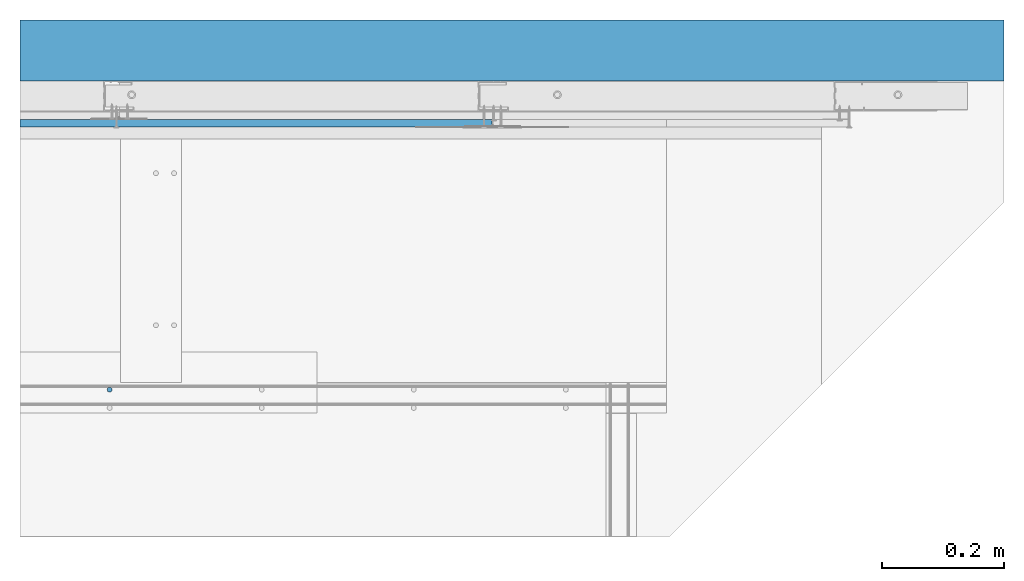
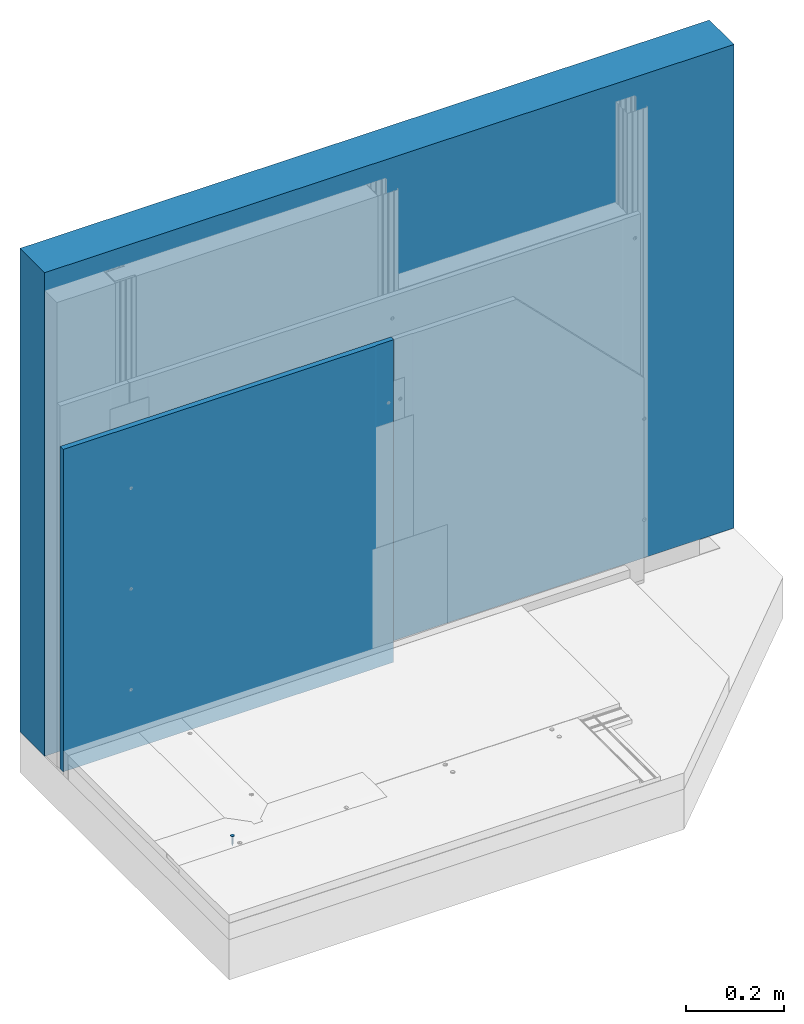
# One storey, part 13 of 38: 2 walls, 1 slab.
"""IFC2X3 building model written with IfcOpenShell, lengths in millimetres."""

from ifc_helpers import new_model, entity, si_unit, converted_unit, direction, frame, origin, origin_with_axes, place, context, project, spatial, faceted_brep, element, save


model = new_model("IFC2X3")

# Units and contexts
model_context = context("Model", 3, precision=1e-05, world=origin(), true_north=direction((0.0, 1.0, 0.0)))
ifc_project = project(units=[si_unit("LENGTHUNIT", "METRE", prefix="MILLI"), si_unit("AREAUNIT", "SQUARE_METRE"), si_unit("VOLUMEUNIT", "CUBIC_METRE"), converted_unit("PLANEANGLEUNIT", "DEGREE", entity("IfcPlaneAngleMeasure", 0.01745), si_unit("PLANEANGLEUNIT", "RADIAN"), dimensions=[0, 0, 0, 0, 0, 0, 0]), si_unit("SOLIDANGLEUNIT", "STERADIAN"), si_unit("MASSUNIT", "GRAM"), si_unit("TIMEUNIT", "SECOND"), si_unit("THERMODYNAMICTEMPERATUREUNIT", "DEGREE_CELSIUS"), si_unit("LUMINOUSINTENSITYUNIT", "LUMEN")], contexts=[model_context])

# Site, building, storey
site_placement = place(None, origin_with_axes())
site = spatial("IfcSite", under=ifc_project, at=site_placement, Name="Default Site", CompositionType="ELEMENT")
building_placement = place(site_placement, origin_with_axes())
building = spatial("IfcBuilding", under=site, at=building_placement, Name="Default Building", CompositionType="ELEMENT")
storey_placement = place(building_placement, origin_with_axes())
storey = spatial("IfcBuildingStorey", under=building, at=storey_placement, Name="Default Building Storey", CompositionType="ELEMENT", Elevation=0.0)

# Slab
slab_placement = place(storey_placement, frame((2135.048962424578, 958.3800775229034, -3328.636918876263), z_axis=(-3.700634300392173e-13, 1.0, -1.897141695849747e-12), x_axis=(-1.0, -3.700634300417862e-13, -1.354137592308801e-12)))
element("IfcSlab", 1, at=slab_placement, inside=storey, Name="Wkręt RIGIPS Rigidur 3,9x19 mm", context=model_context, shape_type="Brep", body=[
    faceted_brep([(-141.5377463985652, 3390.556721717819, 555.8000000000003), (-141.5377463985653, 3391.020944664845, 555.8000000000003), (-141.4875329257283, 3391.020944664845, 555.1619773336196), (-141.4875329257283, 3390.556721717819, 555.1619773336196), (-141.3381289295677, 3391.020944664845, 554.5396649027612), (-141.3381289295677, 3390.556721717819, 554.5396649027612), (-141.0932132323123, 3391.020944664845, 553.9483861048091), (-141.0932132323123, 3390.556721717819, 553.9483861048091), (-140.7588164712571, 3391.020944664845, 553.4027001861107), (-140.7588164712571, 3390.556721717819, 553.4027001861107), (-140.3431726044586, 3391.020944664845, 552.9160437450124), (-140.4541727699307, 3390.556721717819, 553.0314907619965), (-140.1080097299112, 3390.556721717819, 552.6986614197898), (-139.8565161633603, 3391.020944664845, 552.5003998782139), (-139.7251262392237, 3390.556721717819, 552.4088262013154), (-139.310830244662, 3391.020944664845, 552.1660031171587), (-139.310830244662, 3390.556721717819, 552.1660031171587), (-138.8708651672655, 3390.556721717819, 551.9735584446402), (-138.7195514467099, 3391.020944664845, 551.9210874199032), (-138.4113302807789, 3390.556721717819, 551.8341600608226), (-137.9385961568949, 3390.556721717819, 551.7497404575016), (-138.0972390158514, 3391.020944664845, 551.7716834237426), (-137.4592163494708, 3391.020944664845, 551.7214699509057), (-137.4592163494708, 3390.556721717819, 551.7214699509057), (-136.8211936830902, 3391.020944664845, 551.7716834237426), (-136.8211936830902, 3390.556721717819, 551.7716834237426), (-136.1988812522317, 3391.020944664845, 551.9210874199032), (-136.1988812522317, 3390.556721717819, 551.9210874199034), (-135.6076024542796, 3391.020944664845, 552.1660031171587), (-135.6076024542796, 3390.556721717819, 552.1660031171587), (-135.0619165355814, 3391.020944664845, 552.5003998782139), (-135.0619165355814, 3390.556721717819, 552.5003998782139), (-134.575260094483, 3391.020944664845, 552.9160437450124), (-134.575260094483, 3390.556721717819, 552.9160437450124), (-134.1596162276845, 3391.020944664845, 553.4027001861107), (-134.1596162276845, 3390.556721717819, 553.4027001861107), (-133.8252194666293, 3391.020944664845, 553.9483861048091), (-133.8252194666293, 3390.556721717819, 553.9483861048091), (-133.5803037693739, 3391.020944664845, 554.5396649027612), (-133.5803037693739, 3390.556721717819, 554.5396649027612), (-133.4308997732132, 3391.020944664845, 556.4380226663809), (-133.4308997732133, 3390.556721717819, 556.4380226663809), (-133.3806863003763, 3390.556721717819, 555.8000000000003), (-133.3806863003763, 3391.020944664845, 555.8000000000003), (-133.4308997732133, 3390.556721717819, 555.1619773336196), (-133.4308997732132, 3391.020944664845, 555.1619773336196), (-133.5803037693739, 3391.020944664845, 557.0603350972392), (-133.5803037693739, 3390.556721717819, 557.0603350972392), (-133.8252194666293, 3391.020944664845, 557.6516138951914), (-133.8252194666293, 3390.556721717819, 557.6516138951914), (-134.1596162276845, 3391.020944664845, 558.1972998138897), (-134.1596162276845, 3390.556721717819, 558.1972998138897), (-134.575260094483, 3391.020944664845, 558.683956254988), (-134.575260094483, 3390.556721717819, 558.683956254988), (-135.0619165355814, 3391.020944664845, 559.0996001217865), (-135.0619165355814, 3390.556721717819, 559.0996001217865), (-135.6076024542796, 3391.020944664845, 559.4339968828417), (-135.6076024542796, 3390.556721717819, 559.4339968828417), (-136.1988812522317, 3391.020944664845, 559.6789125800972), (-136.1988812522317, 3390.556721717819, 559.6789125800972), (-136.8211936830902, 3391.020944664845, 559.8283165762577), (-136.8211936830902, 3390.556721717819, 559.8283165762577), (-137.4592163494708, 3391.020944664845, 559.8785300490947), (-137.4592163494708, 3390.556721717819, 559.8785300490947), (-138.0972390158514, 3391.020944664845, 559.8283165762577), (-138.0972390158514, 3390.556721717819, 559.8283165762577), (-138.7195514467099, 3391.020944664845, 559.6789125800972), (-138.7195514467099, 3390.556721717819, 559.6789125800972), (-139.310830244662, 3391.020944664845, 559.4339968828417), (-139.310830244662, 3390.556721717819, 559.4339968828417), (-139.8565161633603, 3391.020944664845, 559.0996001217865), (-139.8565161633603, 3390.556721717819, 559.0996001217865), (-140.3431726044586, 3391.020944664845, 558.683956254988), (-140.3431726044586, 3390.556721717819, 558.683956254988), (-140.7588164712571, 3391.020944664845, 558.1972998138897), (-140.7588164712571, 3390.556721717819, 558.1972998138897), (-141.0932132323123, 3391.020944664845, 557.6516138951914), (-141.0932132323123, 3390.556721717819, 557.6516138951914), (-141.3381289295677, 3391.020944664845, 557.0603350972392), (-141.3381289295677, 3390.556721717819, 557.0603350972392), (-141.4875329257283, 3391.020944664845, 556.4380226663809), (-141.4875329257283, 3390.556721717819, 556.4380226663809), (-137.80606154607, 3388.229732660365, 554.5055560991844), (-137.4592163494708, 3387.475459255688, 554.5693795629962), (-137.6517277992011, 3387.475459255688, 554.5845305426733), (-137.4592163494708, 3388.229732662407, 554.4598930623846), (-137.8394989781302, 3387.475459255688, 554.6296104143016), (-138.1292698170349, 3388.229732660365, 554.639433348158), (-138.0179063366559, 3387.475459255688, 554.7035091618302), (-138.1825568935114, 3387.475459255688, 554.804407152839), (-138.4068150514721, 3388.229732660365, 554.8524012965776), (-138.3293964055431, 3387.475459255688, 554.929819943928), (-138.6197830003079, 3388.229732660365, 555.1299465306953), (-138.4548091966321, 3387.475459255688, 555.0766594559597), (-138.5557071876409, 3387.475459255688, 555.2413100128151), (-138.7536602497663, 3388.229732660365, 555.4531548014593), (-138.6296059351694, 3387.475459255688, 555.4197173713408), (-138.6746858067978, 3387.475459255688, 555.60748855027), (-138.7993232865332, 3388.229732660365, 555.7999999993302), (-138.6898367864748, 3387.475459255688, 555.8000000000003), (-138.753660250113, 3388.229732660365, 556.1468451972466), (-138.6746858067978, 3387.475459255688, 555.9925114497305), (-138.6296059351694, 3387.475459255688, 556.1802826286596), (-138.619783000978, 3388.229732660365, 556.4700534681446), (-138.5557071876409, 3387.475459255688, 556.3586899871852), (-138.4548091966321, 3387.475459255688, 556.5233405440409), (-138.4068150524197, 3388.229732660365, 556.7475987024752), (-138.3293964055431, 3387.475459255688, 556.6701800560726), (-138.1292698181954, 3388.229732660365, 556.9605666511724), (-138.1825568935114, 3387.475459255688, 556.7955928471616), (-138.0179063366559, 3387.475459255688, 556.8964908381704), (-137.8060615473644, 3388.229732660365, 557.0944439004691), (-137.8394989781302, 3387.475459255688, 556.9703895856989), (-137.6517277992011, 3387.475459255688, 557.0154694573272), (-137.4592163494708, 3388.229732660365, 557.1401069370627), (-137.4592163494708, 3387.475459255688, 557.0306204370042), (-137.1123711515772, 3388.229732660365, 557.0944439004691), (-137.2667048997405, 3387.475459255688, 557.0154694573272), (-137.0789337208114, 3387.475459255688, 556.9703895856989), (-136.7891628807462, 3388.229732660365, 556.9605666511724), (-136.9005263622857, 3387.475459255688, 556.8964908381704), (-136.7358758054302, 3387.475459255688, 556.7955928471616), (-136.5116176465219, 3388.229732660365, 556.7475987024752), (-136.5890362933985, 3387.475459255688, 556.6701800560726), (-136.2986496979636, 3388.229732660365, 556.4700534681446), (-136.4636235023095, 3387.475459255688, 556.5233405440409), (-136.3627255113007, 3387.475459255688, 556.3586899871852), (-136.1647724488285, 3388.229732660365, 556.1468451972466), (-136.2888267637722, 3387.475459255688, 556.1802826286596), (-136.2437468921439, 3387.475459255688, 555.9925114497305), (-136.1191094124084, 3388.229732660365, 555.7999999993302), (-136.2285959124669, 3387.475459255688, 555.8000000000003), (-136.1647724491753, 3388.229732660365, 555.4531548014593), (-136.2437468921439, 3387.475459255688, 555.60748855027), (-136.2888267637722, 3387.475459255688, 555.4197173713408), (-136.2986496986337, 3388.229732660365, 555.1299465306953), (-136.3627255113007, 3387.475459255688, 555.2413100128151), (-136.4636235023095, 3387.475459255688, 555.0766594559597), (-136.5116176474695, 3388.229732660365, 554.8524012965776), (-136.5890362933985, 3387.475459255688, 554.929819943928), (-136.7891628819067, 3388.229732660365, 554.639433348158), (-136.7358758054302, 3387.475459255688, 554.804407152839), (-136.9005263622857, 3387.475459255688, 554.7035091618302), (-137.1123711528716, 3388.229732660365, 554.5055560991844), (-137.0789337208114, 3387.475459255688, 554.6296104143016), (-137.2667048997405, 3387.475459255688, 554.5845305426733), (-137.4592163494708, 3388.936142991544, 554.1737111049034), (-137.8801308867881, 3388.936142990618, 554.229125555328), (-138.2723607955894, 3388.936142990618, 554.3915925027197), (-138.6091762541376, 3388.936142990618, 554.6500400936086), (-138.8676238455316, 3388.936142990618, 554.9868555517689), (-139.0300907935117, 3388.936142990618, 555.3790854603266), (-139.0855052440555, 3388.936142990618, 555.7999999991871), (-139.0300907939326, 3388.936142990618, 556.2209145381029), (-138.8676238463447, 3388.936142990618, 556.6131444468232), (-138.6091762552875, 3388.936142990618, 556.9499599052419), (-138.2723607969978, 3388.936142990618, 557.2084074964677), (-137.880130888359, 3388.936142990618, 557.3708744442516), (-137.4592163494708, 3388.936142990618, 557.426288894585), (-137.0383018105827, 3388.936142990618, 557.3708744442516), (-136.6460719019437, 3388.936142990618, 557.2084074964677), (-136.3092564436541, 3388.936142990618, 556.9499599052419), (-136.0508088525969, 3388.936142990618, 556.6131444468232), (-135.8883419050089, 3388.936142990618, 556.2209145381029), (-135.8329274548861, 3388.936142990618, 555.7999999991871), (-135.8883419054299, 3388.936142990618, 555.3790854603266), (-136.05080885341, 3388.936142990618, 554.9868555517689), (-136.309256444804, 3388.936142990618, 554.6500400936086), (-136.6460719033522, 3388.936142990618, 554.3915925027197), (-137.0383018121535, 3388.936142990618, 554.229125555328), (-137.4592163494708, 3389.553938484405, 553.7273431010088), (-137.9956594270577, 3389.553938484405, 553.7979671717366), (-138.4955447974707, 3389.553938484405, 554.005026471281), (-138.9248060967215, 3389.553938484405, 554.3344102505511), (-139.2541898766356, 3389.553938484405, 554.7636715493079), (-139.4612491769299, 3389.553938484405, 555.2635569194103), (-139.5318732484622, 3389.553938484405, 555.7999999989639), (-139.4612491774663, 3389.553938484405, 556.3364430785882), (-139.2541898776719, 3389.553938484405, 556.8363284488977), (-138.9248060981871, 3389.553938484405, 557.2655897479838), (-138.4955447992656, 3389.553938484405, 557.594973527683), (-137.9956594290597, 3389.553938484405, 557.8020328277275), (-137.4592163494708, 3389.553938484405, 557.8726568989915), (-136.9227732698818, 3389.553938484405, 557.8020328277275), (-136.4228878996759, 3389.553938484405, 557.594973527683), (-135.9936266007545, 3389.553938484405, 557.2655897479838), (-135.6642428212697, 3389.553938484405, 556.8363284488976), (-135.4571835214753, 3389.553938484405, 556.3364430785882), (-135.3865594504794, 3389.553938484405, 555.7999999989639), (-135.4571835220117, 3389.553938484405, 555.2635569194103), (-135.664242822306, 3389.553938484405, 554.7636715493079), (-135.9936266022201, 3389.553938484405, 554.3344102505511), (-136.4228879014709, 3389.553938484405, 554.005026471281), (-136.9227732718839, 3389.553938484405, 553.7979671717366), (-137.4592163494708, 3390.047479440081, 553.1465393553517), (-138.1459824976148, 3390.047479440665, 553.2369538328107), (-138.7859466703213, 3390.047479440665, 553.5020356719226), (-139.3354963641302, 3390.047479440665, 553.9237199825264), (-139.7571806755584, 3390.047479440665, 554.4732696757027), (-140.0222625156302, 3390.047479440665, 555.1132338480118), (-140.1126769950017, 3390.047479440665, 555.7999999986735), (-140.0222625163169, 3390.047479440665, 556.4867661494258), (-139.7571806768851, 3390.047479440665, 557.1267303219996), (-139.3354963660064, 3390.047479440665, 557.6762800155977), (-138.7859466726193, 3390.047479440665, 558.0979643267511), (-138.1459825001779, 3390.047479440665, 558.3630461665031), (-137.4592163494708, 3390.047479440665, 558.4534606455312), (-136.7724501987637, 3390.047479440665, 558.3630461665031), (-136.1324860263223, 3390.047479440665, 558.0979643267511), (-135.5829363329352, 3390.047479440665, 557.6762800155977), (-135.1612520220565, 3390.047479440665, 557.1267303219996), (-134.8961701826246, 3390.047479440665, 556.4867661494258), (-134.8057557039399, 3390.047479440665, 555.7999999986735), (-134.8961701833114, 3390.047479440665, 555.1132338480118), (-135.1612520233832, 3390.047479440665, 554.4732696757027), (-135.5829363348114, 3390.047479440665, 553.9237199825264), (-136.1324860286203, 3390.047479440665, 553.5020356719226), (-136.7724502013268, 3390.047479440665, 553.2369538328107), (-137.4592163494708, 3390.388294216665, 552.4648055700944), (-138.3224281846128, 3390.388294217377, 552.578449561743), (-139.1268135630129, 3390.388294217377, 552.9116368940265), (-139.8175549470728, 3390.388294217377, 553.4416613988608), (-140.3475794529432, 3390.388294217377, 554.1324027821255), (-140.6807667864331, 3390.388294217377, 554.9367881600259), (-140.7944107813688, 3390.388294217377, 555.7999999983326), (-140.6807667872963, 3390.388294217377, 556.6632118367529), (-140.3475794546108, 3390.388294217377, 557.4675972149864), (-139.8175549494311, 3390.388294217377, 558.1583385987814), (-139.1268135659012, 3390.388294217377, 558.6883631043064), (-138.3224281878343, 3390.388294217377, 559.0215504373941), (-137.4592163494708, 3390.388294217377, 559.1351944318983), (-136.5960045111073, 3390.388294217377, 559.0215504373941), (-135.7916191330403, 3390.388294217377, 558.6883631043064), (-135.1008777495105, 3390.388294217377, 558.1583385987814), (-134.5708532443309, 3390.388294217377, 557.4675972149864), (-134.2376659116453, 3390.388294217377, 556.6632118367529), (-134.1240219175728, 3390.388294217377, 555.7999999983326), (-134.2376659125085, 3390.388294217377, 554.9367881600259), (-134.5708532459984, 3390.388294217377, 554.1324027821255), (-135.1008777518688, 3390.388294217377, 553.4416613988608), (-135.7916191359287, 3390.388294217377, 552.9116368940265), (-136.5960045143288, 3390.388294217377, 552.578449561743), (-138.6898367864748, 3370.55807436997, 555.8000000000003), (-138.6746858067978, 3370.55807436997, 555.60748855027), (-138.6296059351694, 3370.55807436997, 555.4197173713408), (-138.5557071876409, 3370.55807436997, 555.2413100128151), (-138.4548091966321, 3370.55807436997, 555.0766594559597), (-138.3293964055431, 3370.55807436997, 554.929819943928), (-138.1825568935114, 3370.55807436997, 554.804407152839), (-138.0179063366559, 3370.55807436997, 554.7035091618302), (-137.8394989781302, 3370.55807436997, 554.6296104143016), (-137.6517277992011, 3370.55807436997, 554.5845305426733), (-137.4592163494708, 3370.55807436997, 554.5693795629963), (-137.2667048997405, 3370.55807436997, 554.5845305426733), (-137.0789337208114, 3370.55807436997, 554.6296104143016), (-136.9005263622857, 3370.55807436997, 554.7035091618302), (-136.7358758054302, 3370.55807436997, 554.804407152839), (-136.5890362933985, 3370.55807436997, 554.929819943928), (-136.4636235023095, 3370.55807436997, 555.0766594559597), (-136.3627255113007, 3370.55807436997, 555.2413100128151), (-136.2888267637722, 3370.55807436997, 555.4197173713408), (-136.2437468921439, 3370.55807436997, 555.9925114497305), (-136.2285959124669, 3370.55807436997, 555.8000000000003), (-136.2437468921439, 3370.55807436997, 555.60748855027), (-136.2888267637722, 3370.55807436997, 556.1802826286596), (-136.3627255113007, 3370.55807436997, 556.3586899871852), (-136.4636235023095, 3370.55807436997, 556.5233405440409), (-136.5890362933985, 3370.55807436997, 556.6701800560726), (-136.7358758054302, 3370.55807436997, 556.7955928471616), (-136.9005263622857, 3370.55807436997, 556.8964908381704), (-137.0789337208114, 3370.55807436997, 556.9703895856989), (-137.2667048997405, 3370.55807436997, 557.0154694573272), (-137.4592163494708, 3370.55807436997, 557.0306204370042), (-137.6517277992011, 3370.55807436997, 557.0154694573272), (-137.8394989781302, 3370.55807436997, 556.9703895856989), (-138.0179063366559, 3370.55807436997, 556.8964908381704), (-138.1825568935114, 3370.55807436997, 556.7955928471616), (-138.3293964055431, 3370.55807436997, 556.6701800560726), (-138.4548091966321, 3370.55807436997, 556.5233405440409), (-138.5557071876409, 3370.55807436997, 556.3586899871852), (-138.6296059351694, 3370.55807436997, 556.1802826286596), (-138.6746858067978, 3370.55807436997, 555.9925114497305), (-137.4592163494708, 3366.021033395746, 555.8000000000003), (-139.9592163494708, 3391.020944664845, 556.3000000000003), (-137.9592163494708, 3391.020944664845, 556.3000000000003), (-139.9592163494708, 3391.020944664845, 555.3000000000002), (-137.9592163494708, 3391.020944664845, 555.3000000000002), (-137.9592163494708, 3391.020944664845, 553.3000000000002), (-136.9592163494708, 3391.020944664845, 553.3000000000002), (-136.9592163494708, 3391.020944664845, 555.3000000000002), (-134.9592163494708, 3391.020944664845, 555.3000000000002), (-134.9592163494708, 3391.020944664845, 556.3000000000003), (-136.9592163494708, 3391.020944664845, 556.3000000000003), (-136.9592163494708, 3391.020944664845, 558.3000000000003), (-137.9592163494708, 3391.020944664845, 558.3000000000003), (-136.9592163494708, 3390.128974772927, 556.3000000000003), (-134.9592163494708, 3390.128974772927, 556.3000000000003), (-134.9592163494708, 3390.128974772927, 555.3000000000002), (-136.9592163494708, 3390.128974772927, 555.3000000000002), (-136.9592163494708, 3390.128974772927, 553.3000000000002), (-137.9592163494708, 3390.128974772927, 553.3000000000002), (-137.9592163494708, 3390.128974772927, 555.3000000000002), (-139.9592163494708, 3390.128974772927, 555.3000000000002), (-139.9592163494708, 3390.128974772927, 556.3000000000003), (-137.9592163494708, 3390.128974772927, 556.3000000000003), (-137.9592163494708, 3390.128974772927, 558.3000000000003), (-136.9592163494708, 3390.128974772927, 558.3000000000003)], [[[0, 1, 2, 3]], [[4, 5, 3, 2]], [[6, 7, 5, 4]], [[7, 6, 8, 9]], [[8, 10, 9]], [[10, 11, 9]], [[12, 11, 13]], [[11, 10, 13]], [[13, 14, 12]], [[13, 15, 14]], [[15, 16, 14]], [[17, 16, 18]], [[16, 15, 18]], [[18, 19, 17]], [[20, 19, 21]], [[19, 18, 21]], [[21, 22, 20]], [[22, 23, 20]], [[23, 22, 24, 25]], [[26, 27, 25, 24]], [[28, 29, 27, 26]], [[29, 28, 30, 31]], [[32, 33, 31, 30]], [[33, 32, 34, 35]], [[36, 37, 35, 34]], [[38, 39, 37, 36]], [[40, 41, 42, 43]], [[43, 42, 44, 45]], [[39, 38, 45, 44]], [[46, 47, 41, 40]], [[48, 49, 47, 46]], [[49, 48, 50, 51]], [[52, 53, 51, 50]], [[53, 52, 54, 55]], [[56, 57, 55, 54]], [[58, 59, 57, 56]], [[59, 58, 60, 61]], [[62, 63, 61, 60]], [[63, 62, 64, 65]], [[66, 67, 65, 64]], [[68, 69, 67, 66]], [[69, 68, 70, 71]], [[72, 73, 71, 70]], [[73, 72, 74, 75]], [[76, 77, 75, 74]], [[78, 79, 77, 76]], [[79, 78, 80, 81]], [[1, 0, 81, 80]], [[82, 83, 84]], [[82, 85, 83]], [[84, 86, 82]], [[82, 86, 87]], [[88, 87, 86]], [[87, 88, 89]], [[89, 90, 87]], [[89, 91, 90]], [[92, 91, 93]], [[92, 90, 91]], [[93, 94, 92]], [[92, 94, 95]], [[96, 95, 94]], [[95, 96, 97]], [[97, 98, 95]], [[97, 99, 98]], [[100, 99, 101]], [[100, 98, 99]], [[101, 102, 100]], [[100, 102, 103]], [[104, 103, 102]], [[103, 104, 105]], [[105, 106, 103]], [[105, 107, 106]], [[108, 107, 109]], [[108, 106, 107]], [[109, 110, 108]], [[108, 110, 111]], [[112, 111, 110]], [[111, 112, 113]], [[113, 114, 111]], [[113, 115, 114]], [[116, 115, 117]], [[116, 114, 115]], [[117, 118, 116]], [[116, 118, 119]], [[120, 119, 118]], [[119, 120, 121]], [[121, 122, 119]], [[121, 123, 122]], [[124, 123, 125]], [[124, 122, 123]], [[125, 126, 124]], [[124, 126, 127]], [[128, 127, 126]], [[127, 128, 129]], [[129, 130, 127]], [[129, 131, 130]], [[132, 131, 133]], [[132, 130, 131]], [[133, 134, 132]], [[132, 134, 135]], [[136, 135, 134]], [[135, 136, 137]], [[137, 138, 135]], [[137, 139, 138]], [[140, 139, 141]], [[140, 138, 139]], [[141, 142, 140]], [[140, 142, 143]], [[144, 143, 142]], [[143, 144, 145]], [[145, 85, 143]], [[145, 83, 85]], [[146, 85, 147]], [[82, 147, 85]], [[87, 148, 147, 82]], [[90, 149, 148, 87]], [[92, 150, 149, 90]], [[95, 151, 150, 92]], [[98, 152, 151, 95]], [[100, 153, 152, 98]], [[103, 154, 153, 100]], [[106, 155, 154, 103]], [[108, 156, 155, 106]], [[111, 157, 156, 108]], [[114, 158, 157, 111]], [[116, 159, 158, 114]], [[119, 160, 159, 116]], [[122, 161, 160, 119]], [[124, 162, 161, 122]], [[127, 163, 162, 124]], [[130, 164, 163, 127]], [[132, 165, 164, 130]], [[135, 166, 165, 132]], [[138, 167, 166, 135]], [[140, 168, 167, 138]], [[143, 169, 168, 140]], [[143, 85, 169]], [[146, 169, 85]], [[170, 146, 171]], [[147, 171, 146]], [[148, 172, 171, 147]], [[149, 173, 172, 148]], [[150, 174, 173, 149]], [[151, 175, 174, 150]], [[152, 176, 175, 151]], [[153, 177, 176, 152]], [[154, 178, 177, 153]], [[155, 179, 178, 154]], [[156, 180, 179, 155]], [[157, 181, 180, 156]], [[158, 182, 181, 157]], [[159, 183, 182, 158]], [[160, 184, 183, 159]], [[161, 185, 184, 160]], [[162, 186, 185, 161]], [[163, 187, 186, 162]], [[164, 188, 187, 163]], [[165, 189, 188, 164]], [[166, 190, 189, 165]], [[167, 191, 190, 166]], [[168, 192, 191, 167]], [[169, 193, 192, 168]], [[169, 146, 193]], [[170, 193, 146]], [[194, 170, 195]], [[171, 195, 170]], [[172, 196, 195, 171]], [[173, 197, 196, 172]], [[174, 198, 197, 173]], [[175, 199, 198, 174]], [[176, 200, 199, 175]], [[177, 201, 200, 176]], [[178, 202, 201, 177]], [[179, 203, 202, 178]], [[180, 204, 203, 179]], [[181, 205, 204, 180]], [[182, 206, 205, 181]], [[183, 207, 206, 182]], [[184, 208, 207, 183]], [[185, 209, 208, 184]], [[186, 210, 209, 185]], [[187, 211, 210, 186]], [[188, 212, 211, 187]], [[189, 213, 212, 188]], [[190, 214, 213, 189]], [[191, 215, 214, 190]], [[192, 216, 215, 191]], [[193, 217, 216, 192]], [[193, 170, 217]], [[194, 217, 170]], [[218, 19, 20]], [[218, 219, 19]], [[20, 23, 218]], [[218, 194, 219]], [[195, 219, 194]], [[219, 16, 17]], [[219, 220, 16]], [[17, 19, 219]], [[196, 220, 219, 195]], [[221, 11, 12]], [[220, 12, 14]], [[220, 221, 12]], [[14, 16, 220]], [[197, 221, 220, 196]], [[222, 7, 9]], [[9, 221, 222]], [[9, 11, 221]], [[198, 222, 221, 197]], [[5, 7, 223]], [[222, 223, 7]], [[199, 223, 222, 198]], [[223, 0, 3]], [[223, 224, 0]], [[3, 5, 223]], [[200, 224, 223, 199]], [[225, 79, 81]], [[81, 224, 225]], [[81, 0, 224]], [[201, 225, 224, 200]], [[225, 226, 77, 79]], [[202, 226, 225, 201]], [[226, 73, 75]], [[226, 227, 73]], [[75, 77, 226]], [[203, 227, 226, 202]], [[228, 69, 71]], [[71, 227, 228]], [[71, 73, 227]], [[204, 228, 227, 203]], [[228, 229, 67, 69]], [[205, 229, 228, 204]], [[229, 63, 65]], [[229, 230, 63]], [[65, 67, 229]], [[206, 230, 229, 205]], [[231, 59, 61]], [[61, 230, 231]], [[61, 63, 230]], [[207, 231, 230, 206]], [[231, 232, 57, 59]], [[208, 232, 231, 207]], [[232, 53, 55]], [[232, 233, 53]], [[55, 57, 232]], [[209, 233, 232, 208]], [[234, 49, 51]], [[51, 233, 234]], [[51, 53, 233]], [[210, 234, 233, 209]], [[234, 235, 47, 49]], [[211, 235, 234, 210]], [[235, 42, 41]], [[235, 236, 42]], [[41, 47, 235]], [[212, 236, 235, 211]], [[237, 39, 44]], [[44, 236, 237]], [[44, 42, 236]], [[213, 237, 236, 212]], [[37, 39, 238]], [[237, 238, 39]], [[214, 238, 237, 213]], [[238, 33, 35]], [[238, 239, 33]], [[35, 37, 238]], [[215, 239, 238, 214]], [[240, 29, 31]], [[31, 239, 240]], [[31, 33, 239]], [[216, 240, 239, 215]], [[27, 29, 241]], [[240, 241, 29]], [[217, 241, 240, 216]], [[217, 194, 241]], [[218, 241, 194]], [[241, 23, 25]], [[241, 218, 23]], [[25, 27, 241]], [[242, 99, 97, 243]], [[96, 244, 243, 97]], [[94, 245, 244, 96]], [[245, 94, 93, 246]], [[91, 247, 246, 93]], [[247, 91, 89, 248]], [[88, 249, 248, 89]], [[86, 250, 249, 88]], [[250, 86, 84, 251]], [[83, 252, 251, 84]], [[252, 83, 145, 253]], [[144, 254, 253, 145]], [[142, 255, 254, 144]], [[255, 142, 141, 256]], [[139, 257, 256, 141]], [[257, 139, 137, 258]], [[136, 259, 258, 137]], [[134, 260, 259, 136]], [[129, 261, 262, 131]], [[131, 262, 263, 133]], [[260, 134, 133, 263]], [[128, 264, 261, 129]], [[126, 265, 264, 128]], [[265, 126, 125, 266]], [[123, 267, 266, 125]], [[267, 123, 121, 268]], [[120, 269, 268, 121]], [[118, 270, 269, 120]], [[270, 118, 117, 271]], [[115, 272, 271, 117]], [[272, 115, 113, 273]], [[112, 274, 273, 113]], [[110, 275, 274, 112]], [[275, 110, 109, 276]], [[107, 277, 276, 109]], [[277, 107, 105, 278]], [[104, 279, 278, 105]], [[102, 280, 279, 104]], [[280, 102, 101, 281]], [[99, 242, 281, 101]], [[243, 244, 282]], [[282, 242, 243]], [[244, 245, 282]], [[246, 247, 282]], [[282, 245, 246]], [[248, 249, 282]], [[282, 247, 248]], [[249, 250, 282]], [[251, 252, 282]], [[282, 250, 251]], [[253, 254, 282]], [[282, 252, 253]], [[254, 255, 282]], [[256, 257, 282]], [[282, 255, 256]], [[258, 259, 282]], [[282, 257, 258]], [[259, 260, 282]], [[263, 262, 282]], [[282, 260, 263]], [[261, 264, 282]], [[282, 262, 261]], [[264, 265, 282]], [[266, 267, 282]], [[282, 265, 266]], [[268, 269, 282]], [[282, 267, 268]], [[269, 270, 282]], [[271, 272, 282]], [[282, 270, 271]], [[273, 274, 282]], [[282, 272, 273]], [[274, 275, 282]], [[276, 277, 282]], [[282, 275, 276]], [[278, 279, 282]], [[282, 277, 278]], [[279, 280, 282]], [[281, 242, 282]], [[282, 280, 281]], [[283, 76, 74, 284]], [[283, 285, 286, 287, 288, 289, 290, 291, 292, 293, 294, 284, 74, 72, 70, 68, 66, 64, 62, 60, 58, 56, 54, 52, 50, 48, 46, 40, 43, 45, 38, 36, 34, 32, 30, 28, 26, 24, 22, 21, 18, 15, 13, 10, 8, 6, 4, 2, 1, 80, 78, 76]], [[295, 296, 297, 298, 299, 300, 301, 302, 303, 304, 305, 306]], [[297, 290, 289, 298]], [[296, 291, 290, 297]], [[295, 292, 291, 296]], [[306, 293, 292, 295]], [[305, 294, 293, 306]], [[304, 284, 294, 305]], [[303, 283, 284, 304]], [[302, 285, 283, 303]], [[301, 286, 285, 302]], [[300, 287, 286, 301]], [[299, 288, 287, 300]], [[298, 289, 288, 299]]]),
])

# Walls
wall_1_placement = place(storey_placement, frame((3516.951496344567, -1288.142300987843, 6.584025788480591), z_axis=(7.620176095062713e-14, 6.858158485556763e-13, 1.0), x_axis=(1.0, 9.714451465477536e-17, -7.62017609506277e-14)))
element("IfcWall", 2, at=wall_1_placement, inside=storey, Name="ŚCIANA", context=model_context, shape_type="Brep", body=[
    faceted_brep([(-1391.926362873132, 3410.283223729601, -4.2000000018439), (226.0891218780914, 3410.283223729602, -4.20000000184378), (226.0891218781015, 3310.283223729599, -4.200000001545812), (-1391.926362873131, 3310.283223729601, -4.200000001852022), (226.0891218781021, 3310.283223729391, 1195.799999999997), (-1391.926362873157, 3310.283223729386, 1195.800000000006), (226.0891218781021, 3410.28322372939, 1195.799999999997), (-1391.926362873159, 3410.28322372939, 1195.8)], [[[0, 1, 2, 3]], [[3, 2, 4, 5]], [[6, 7, 5, 4]], [[4, 2, 1, 6]], [[0, 7, 6, 1]], [[0, 3, 5, 7]]]),
])
wall_2_placement = place(storey_placement, frame((2901.506370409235, 1958.680077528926, 1059.999999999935), z_axis=(0.0, 0.0, 1.0), x_axis=(-1.0, 6.389333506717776e-13, 0.0)))
element("IfcWall", 3, at=wall_2_placement, inside=storey, Name="Płyta gipsowo-kartonowa RIGIPS PRO (4PRO™)", context=model_context, shape_type="Brep", body=[
    faceted_brep([(776.4812369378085, 12.49999999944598, -249.9999999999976), (776.4812369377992, -5.262734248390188e-10, -249.9999999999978), (776.4812369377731, -5.230248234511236e-10, -1050.001581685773), (776.4812369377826, 12.49999999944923, -1050.001581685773), (44.99999999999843, 12.50000000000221, -249.9999999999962), (40.99999999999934, 11.50000000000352, -249.9999999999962), (0.9999999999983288, 11.50000000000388, -249.9999999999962), (0.7411809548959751, 11.46592582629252, -249.9999999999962), (0.4999999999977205, 11.3660254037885, -249.9999999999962), (0.29289321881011, 11.20710678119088, -249.9999999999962), (0.1339745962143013, 11.00000000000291, -249.9999999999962), (0.03407417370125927, 10.7588190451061, -249.9999999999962), (-2.526689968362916e-12, 10.50000000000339, -249.9999999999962), (0.0, 0.0, -249.9999999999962), (44.99999999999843, 12.50000000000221, -1050.001581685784), (40.99999999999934, 11.50000000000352, -1050.001581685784), (0.9999999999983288, 11.50000000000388, -1050.001581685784), (0.7411809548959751, 11.46592582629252, -1050.001581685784), (0.4999999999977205, 11.3660254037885, -1050.001581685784), (0.29289321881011, 11.20710678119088, -1050.001581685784), (0.1339745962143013, 11.00000000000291, -1050.001581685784), (0.03407417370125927, 10.7588190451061, -1050.001581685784), (-2.526689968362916e-12, 10.50000000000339, -1050.001581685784), (0.0, 0.0, -1050.001581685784)], [[[0, 1, 2, 3]], [[0, 4, 5, 6, 7, 8, 9, 10, 11, 12, 13, 1]], [[3, 14, 4, 0]], [[5, 4, 14, 15]], [[6, 5, 15, 16]], [[7, 6, 16, 17]], [[8, 7, 17, 18]], [[9, 8, 18, 19]], [[10, 9, 19, 20]], [[11, 10, 20, 21]], [[12, 11, 21, 22]], [[13, 12, 22, 23]], [[2, 1, 13, 23]], [[14, 3, 2, 23, 22, 21, 20, 19, 18, 17, 16, 15]]]),
])

save(model, "model.ifc")
